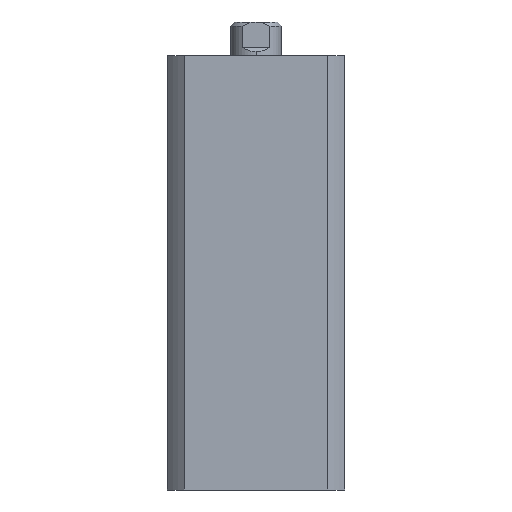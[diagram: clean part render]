
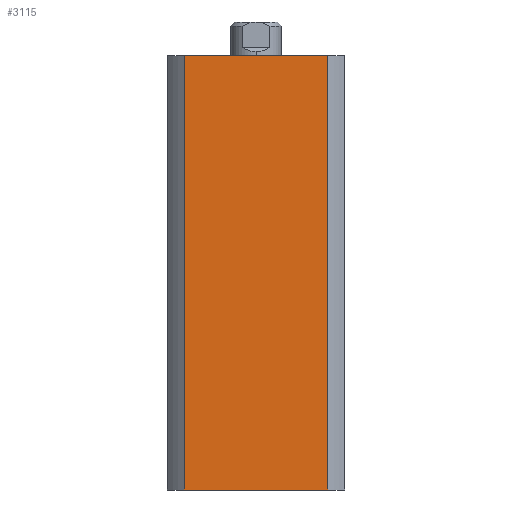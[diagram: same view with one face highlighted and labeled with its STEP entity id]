
A CAD part, left-side view. The second image highlights one B-rep face of the part: STEP entity #3115.
In plain terms, the highlighted planar face has unit normal (-1, 0, 0).
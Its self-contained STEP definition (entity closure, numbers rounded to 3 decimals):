
#62 = EDGE_CURVE ( 'NONE', #2140, #2088, #1963, .T. ) ;
#70 = EDGE_CURVE ( 'NONE', #2088, #2115, #1944, .T. ) ;
#71 = EDGE_CURVE ( 'NONE', #2103, #2140, #1942, .T. ) ;
#633 = EDGE_LOOP ( 'NONE', ( #905, #876, #897, #839 ) ) ;
#839 = ORIENTED_EDGE ( 'NONE', *, *, #3803, .T. ) ;
#876 = ORIENTED_EDGE ( 'NONE', *, *, #62, .F. ) ;
#897 = ORIENTED_EDGE ( 'NONE', *, *, #71, .F. ) ;
#905 = ORIENTED_EDGE ( 'NONE', *, *, #70, .F. ) ;
#1939 = VECTOR ( 'NONE', #3682, 1000. ) ;
#1941 = VECTOR ( 'NONE', #3684, 1000. ) ;
#1942 = LINE ( 'NONE', #3683, #1939 ) ;
#1944 = LINE ( 'NONE', #3685, #1941 ) ;
#1955 = VECTOR ( 'NONE', #3718, 1000. ) ;
#1963 = LINE ( 'NONE', #3712, #1955 ) ;
#2088 = VERTEX_POINT ( 'NONE', #3383 ) ;
#2103 = VERTEX_POINT ( 'NONE', #3365 ) ;
#2115 = VERTEX_POINT ( 'NONE', #3349 ) ;
#2140 = VERTEX_POINT ( 'NONE', #3315 ) ;
#2362 = DIRECTION ( 'NONE',  ( 0., -1., 0. ) ) ;
#2388 = CARTESIAN_POINT ( 'NONE',  ( -21., 21., 0. ) ) ;
#3115 = ADVANCED_FACE ( 'NONE', ( #5035 ), #4506, .F. ) ;
#3181 = AXIS2_PLACEMENT_3D ( 'NONE', #4514, #4500, #4496 ) ;
#3315 = CARTESIAN_POINT ( 'NONE',  ( -21., 16.971, 103. ) ) ;
#3349 = CARTESIAN_POINT ( 'NONE',  ( -21., -16.971, 0. ) ) ;
#3365 = CARTESIAN_POINT ( 'NONE',  ( -21., 16.971, 0. ) ) ;
#3383 = CARTESIAN_POINT ( 'NONE',  ( -21., -16.971, 103. ) ) ;
#3682 = DIRECTION ( 'NONE',  ( 0., 0., 1. ) ) ;
#3683 = CARTESIAN_POINT ( 'NONE',  ( -21., 16.971, 103. ) ) ;
#3684 = DIRECTION ( 'NONE',  ( 0., 0., -1. ) ) ;
#3685 = CARTESIAN_POINT ( 'NONE',  ( -21., -16.971, 103. ) ) ;
#3712 = CARTESIAN_POINT ( 'NONE',  ( -21., 21., 103. ) ) ;
#3718 = DIRECTION ( 'NONE',  ( 0., -1., 0. ) ) ;
#3803 = EDGE_CURVE ( 'NONE', #2103, #2115, #4895, .T. ) ;
#4496 = DIRECTION ( 'NONE',  ( 0., 1., 0. ) ) ;
#4500 = DIRECTION ( 'NONE',  ( 1., 0., 0. ) ) ;
#4506 = PLANE ( 'NONE',  #3181 ) ;
#4514 = CARTESIAN_POINT ( 'NONE',  ( -21., 21., 103. ) ) ;
#4891 = VECTOR ( 'NONE', #2362, 1000. ) ;
#4895 = LINE ( 'NONE', #2388, #4891 ) ;
#5035 = FACE_OUTER_BOUND ( 'NONE', #633, .T. ) ;
